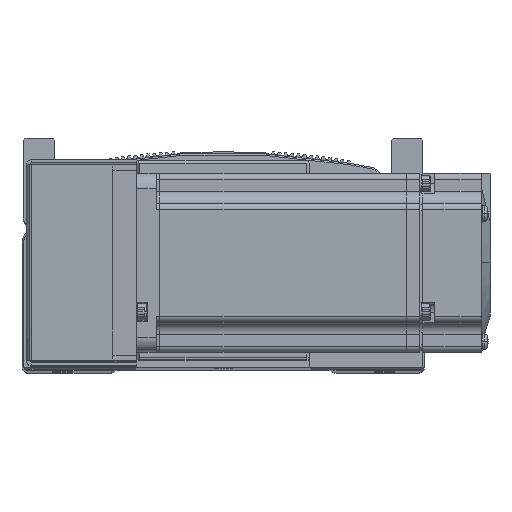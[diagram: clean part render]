
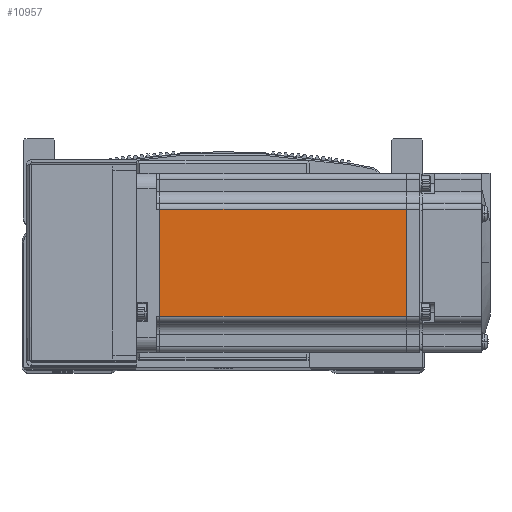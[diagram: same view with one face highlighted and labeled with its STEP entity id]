
A CAD part, top view. The second image highlights one B-rep face of the part: STEP entity #10957.
In plain terms, the highlighted planar face has unit normal (0, 0, 1) as drawn and (0, 0, -1) by its records, which use the part's own axes.
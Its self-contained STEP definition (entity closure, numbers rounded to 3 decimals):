
#10957 = ADVANCED_FACE ( 'NONE', ( #32317 ), #77250, .T. ) ;
#14214 = CARTESIAN_POINT ( 'NONE',  ( -6.5, 18., -30. ) ) ;
#14246 = CARTESIAN_POINT ( 'NONE',  ( -6.5, -18., -30. ) ) ;
#14249 = DIRECTION ( 'NONE',  ( -1., 0., 0. ) ) ;
#14344 = DIRECTION ( 'NONE',  ( 1., 0., 0. ) ) ;
#14512 = CARTESIAN_POINT ( 'NONE',  ( -90.45, 25., -30. ) ) ;
#14514 = DIRECTION ( 'NONE',  ( 0., 1., 0. ) ) ;
#14538 = CARTESIAN_POINT ( 'NONE',  ( -7.75, 25., -30. ) ) ;
#14560 = DIRECTION ( 'NONE',  ( 0., -1., 0. ) ) ;
#17870 = LINE ( 'NONE', #14214, #17872 ) ;
#17872 = VECTOR ( 'NONE', #14344, 1000. ) ;
#17895 = LINE ( 'NONE', #14246, #17899 ) ;
#17899 = VECTOR ( 'NONE', #14249, 1000. ) ;
#17939 = VECTOR ( 'NONE', #14560, 1000. ) ;
#17967 = LINE ( 'NONE', #14512, #17979 ) ;
#17973 = LINE ( 'NONE', #14538, #17939 ) ;
#17979 = VECTOR ( 'NONE', #14514, 1000. ) ;
#18511 = AXIS2_PLACEMENT_3D ( 'NONE', #77212, #77165, #77227 ) ;
#24742 = CARTESIAN_POINT ( 'NONE',  ( -7.75, -18., -30. ) ) ;
#24796 = CARTESIAN_POINT ( 'NONE',  ( -90.45, 18., -30. ) ) ;
#24798 = CARTESIAN_POINT ( 'NONE',  ( -7.75, 18., -30. ) ) ;
#24862 = CARTESIAN_POINT ( 'NONE',  ( -90.45, -18., -30. ) ) ;
#32317 = FACE_OUTER_BOUND ( 'NONE', #38944, .T. ) ;
#38944 = EDGE_LOOP ( 'NONE', ( #56269, #56346, #56421, #56484 ) ) ;
#56269 = ORIENTED_EDGE ( 'NONE', *, *, #63968, .T. ) ;
#56346 = ORIENTED_EDGE ( 'NONE', *, *, #63943, .T. ) ;
#56421 = ORIENTED_EDGE ( 'NONE', *, *, #63964, .T. ) ;
#56484 = ORIENTED_EDGE ( 'NONE', *, *, #63948, .T. ) ;
#57684 = VERTEX_POINT ( 'NONE', #24742 ) ;
#57771 = VERTEX_POINT ( 'NONE', #24796 ) ;
#57833 = VERTEX_POINT ( 'NONE', #24798 ) ;
#57947 = VERTEX_POINT ( 'NONE', #24862 ) ;
#63943 = EDGE_CURVE ( 'NONE', #57684, #57947, #17895, .T. ) ;
#63948 = EDGE_CURVE ( 'NONE', #57771, #57833, #17870, .T. ) ;
#63964 = EDGE_CURVE ( 'NONE', #57947, #57771, #17967, .T. ) ;
#63968 = EDGE_CURVE ( 'NONE', #57833, #57684, #17973, .T. ) ;
#77165 = DIRECTION ( 'NONE',  ( 0., 0., -1. ) ) ;
#77212 = CARTESIAN_POINT ( 'NONE',  ( -6.5, 25., -30. ) ) ;
#77227 = DIRECTION ( 'NONE',  ( -1., 0., 0. ) ) ;
#77250 = PLANE ( 'NONE',  #18511 ) ;
